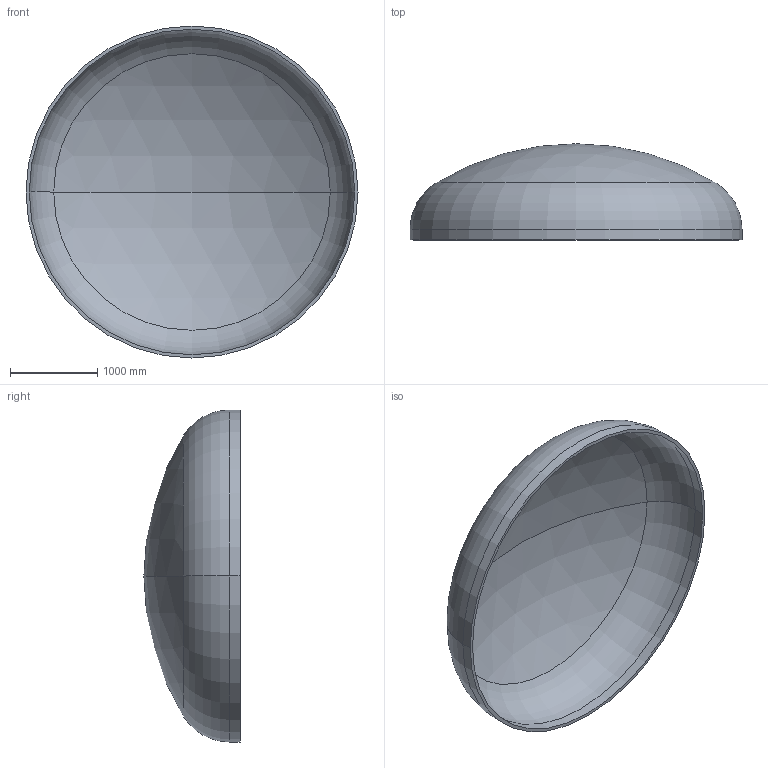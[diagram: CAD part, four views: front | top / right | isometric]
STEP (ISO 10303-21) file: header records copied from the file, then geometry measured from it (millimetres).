
FILE_DESCRIPTION (( 'STEP AP203' ), '1' );
FILE_NAME ('DIN 28013 Korbbogenform_-_Boden DIN 28013 - 3800 x 120 - I - s=37.step', '2016-07-01T21:20:34', ( '' ), ( '' ), 'SwSTEP 2.0', 'SolidWorks 2013', '' );
FILE_SCHEMA (( 'CONFIG_CONTROL_DESIGN' ));
Length unit declared in the file: millimetre
Products named in the file (1): DIN 28013 Korbbogenform_-_Boden DIN 28013 - 3800 x 120 - I - s=37
Bounding box: 3800 x 1100.87 x 3800 mm (x, y, z)
Volume: 626186270.7 mm3; surface area: 34288168.4 mm2
Topology: 1 solids, 1 shells, 13 faces, 24 edges, 14 vertices
Faces by surface type: torus 4, cylinder 4, sphere 4, plane 1
Entity records: 407 total; most frequent: DIRECTION 72, CARTESIAN_POINT 52, ORIENTED_EDGE 48, AXIS2_PLACEMENT_3D 34, EDGE_CURVE 24, CIRCLE 20, VERTEX_POINT 14, EDGE_LOOP 14
